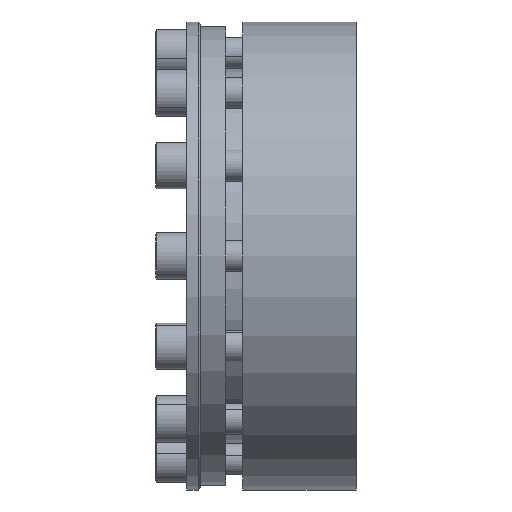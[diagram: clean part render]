
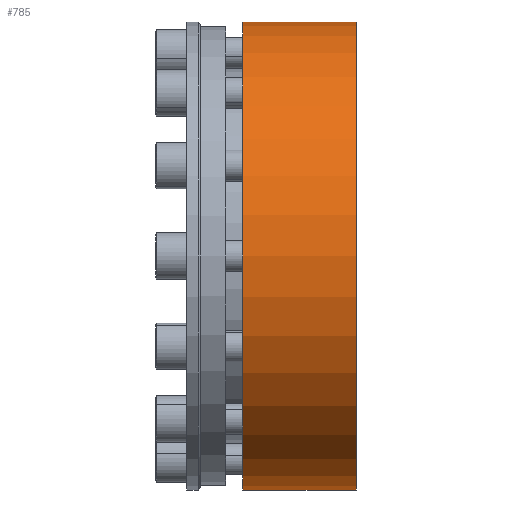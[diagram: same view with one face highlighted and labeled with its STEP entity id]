
A CAD part, front view. The second image highlights one B-rep face of the part: STEP entity #785.
In plain terms, the highlighted cylindrical face has radius 105 mm (diameter 210 mm), a partial arc.
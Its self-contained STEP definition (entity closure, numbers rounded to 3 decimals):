
#628 = VERTEX_POINT ( 'NONE', #4333 ) ;
#629 = VERTEX_POINT ( 'NONE', #4332 ) ;
#631 = EDGE_CURVE ( 'NONE', #629, #632, #4331, .T. ) ;
#632 = VERTEX_POINT ( 'NONE', #4327 ) ;
#686 = VERTEX_POINT ( 'NONE', #4433 ) ;
#688 = EDGE_CURVE ( 'NONE', #628, #686, #4432, .T. ) ;
#730 = EDGE_CURVE ( 'NONE', #629, #628, #4490, .T. ) ;
#785 = ADVANCED_FACE ( 'NONE', ( #4542 ), #4540, .T. ) ;
#786 = ORIENTED_EDGE ( 'NONE', *, *, #631, .F. ) ;
#787 = ORIENTED_EDGE ( 'NONE', *, *, #730, .T. ) ;
#788 = ORIENTED_EDGE ( 'NONE', *, *, #688, .T. ) ;
#789 = ORIENTED_EDGE ( 'NONE', *, *, #790, .F. ) ;
#790 = EDGE_CURVE ( 'NONE', #632, #686, #4606, .T. ) ;
#810 = EDGE_LOOP ( 'NONE', ( #786, #787, #788, #789 ) ) ;
#4327 = CARTESIAN_POINT ( 'NONE',  ( 25., 0., -105. ) ) ;
#4328 = DIRECTION ( 'NONE',  ( -1., 0., 0. ) ) ;
#4329 = VECTOR ( 'NONE', #4328, 1000. ) ;
#4330 = CARTESIAN_POINT ( 'NONE',  ( 0., 0., -105. ) ) ;
#4331 = LINE ( 'NONE', #4330, #4329 ) ;
#4332 = CARTESIAN_POINT ( 'NONE',  ( 76., 0., -105. ) ) ;
#4333 = CARTESIAN_POINT ( 'NONE',  ( 76., 0., 105. ) ) ;
#4429 = DIRECTION ( 'NONE',  ( -1., 0., 0. ) ) ;
#4430 = VECTOR ( 'NONE', #4429, 1000. ) ;
#4431 = CARTESIAN_POINT ( 'NONE',  ( 0., 0., 105. ) ) ;
#4432 = LINE ( 'NONE', #4431, #4430 ) ;
#4433 = CARTESIAN_POINT ( 'NONE',  ( 25., 0., 105. ) ) ;
#4486 = DIRECTION ( 'NONE',  ( 0., 0., 1. ) ) ;
#4487 = DIRECTION ( 'NONE',  ( -1., 0., 0. ) ) ;
#4488 = CARTESIAN_POINT ( 'NONE',  ( 76., 0., 0. ) ) ;
#4489 = AXIS2_PLACEMENT_3D ( 'NONE', #4488, #4487, #4486 ) ;
#4490 = CIRCLE ( 'NONE', #4489, 105. ) ;
#4540 = CYLINDRICAL_SURFACE ( 'NONE', #4541, 105. ) ;
#4541 = AXIS2_PLACEMENT_3D ( 'NONE', #4609, #4608, #4607 ) ;
#4542 = FACE_OUTER_BOUND ( 'NONE', #810, .T. ) ;
#4602 = DIRECTION ( 'NONE',  ( 0., 0., 1. ) ) ;
#4603 = DIRECTION ( 'NONE',  ( -1., 0., 0. ) ) ;
#4604 = CARTESIAN_POINT ( 'NONE',  ( 25., 0., 0. ) ) ;
#4605 = AXIS2_PLACEMENT_3D ( 'NONE', #4604, #4603, #4602 ) ;
#4606 = CIRCLE ( 'NONE', #4605, 105. ) ;
#4607 = DIRECTION ( 'NONE',  ( 0., 0., 1. ) ) ;
#4608 = DIRECTION ( 'NONE',  ( -1., 0., 0. ) ) ;
#4609 = CARTESIAN_POINT ( 'NONE',  ( 0., 0., 0. ) ) ;
